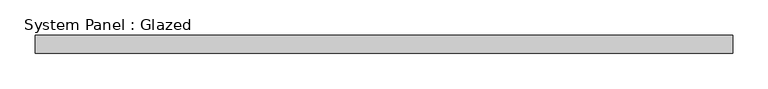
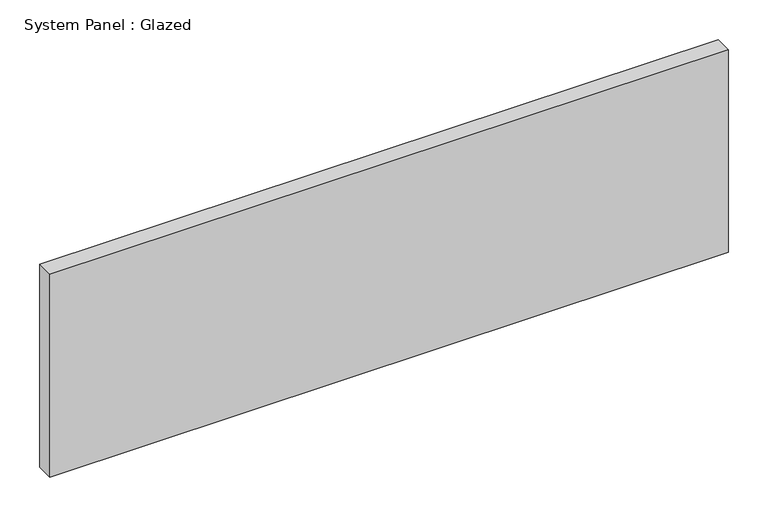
"""IFC4 building model written with IfcOpenShell, lengths in millimetres: plate geometry, System Panel : Glazed."""

from ifc_helpers import new_model, si_unit, origin, origin_with_axes, place, context, project, spatial, polyline, outline, extrude, source, transform, mapped, element, save


def system_panel_glazed_9fecdc1a(model_context):
    return source(origin(), model_context, "Body", "SweptSolid", [
        extrude(outline(polyline([(492.125, 19.05), (-492.125, 19.05), (-492.125, 44.45), (492.125, 44.45), (492.125, 19.05)])), origin_with_axes(), (0.0, 0.0, 1.0), 310.8709562),
    ])


if __name__ == "__main__":
    model = new_model("IFC4")
    model_context = context("Model", 3, world=origin())
    ifc_project = project(units=[si_unit("LENGTHUNIT", "METRE", prefix="MILLI")], contexts=[model_context])
    site = spatial("IfcSite", under=ifc_project)
    building = spatial("IfcBuilding", under=site)
    placement = place(None, origin())
    system_panel_glazed_shape = system_panel_glazed_9fecdc1a(model_context)
    element("IfcPlate", 1, ObjectType="System Panel : Glazed", at=placement, inside=building, context=model_context, shape_type="MappedRepresentation", body=[
        mapped(system_panel_glazed_shape, transform((0.0, 0.0, 0.0), x_axis=(1.0, 0.0, 0.0), y_axis=(0.0, 1.0, 0.0), z_axis=(0.0, 0.0, 1.0))),
    ])
    save(model, "model.ifc")
